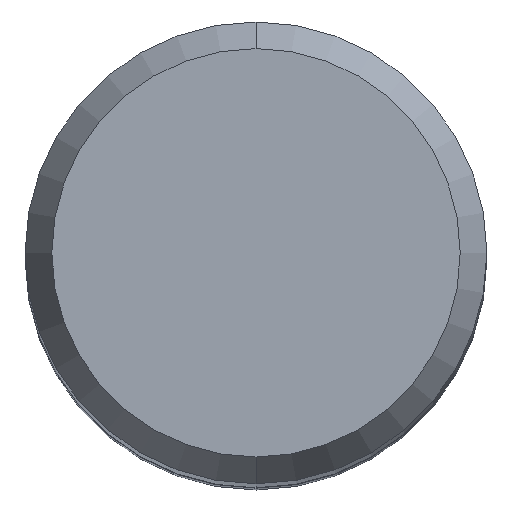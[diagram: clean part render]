
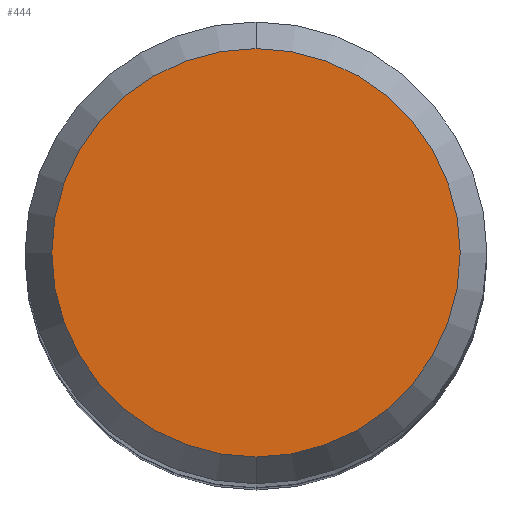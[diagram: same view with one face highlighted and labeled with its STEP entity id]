
A CAD part, top view. The second image highlights one B-rep face of the part: STEP entity #444.
In plain terms, the highlighted planar face has unit normal (0, 0, 1).
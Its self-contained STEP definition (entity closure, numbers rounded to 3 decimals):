
#366=EDGE_CURVE('',#426,#526,#794,.T.);
#390=EDGE_CURVE('',#526,#426,#822,.T.);
#426=VERTEX_POINT('',#861);
#444=ADVANCED_FACE('',(#880),#881,.T.);
#526=VERTEX_POINT('',#969);
#794=CIRCLE('',#1363,3.538);
#822=CIRCLE('',#1452,3.538);
#861=CARTESIAN_POINT('',(0.0,3.538,0.0));
#880=FACE_OUTER_BOUND('',#1523,.T.);
#881=PLANE('',#1524);
#969=CARTESIAN_POINT('',(0.,-3.538,0.0));
#1363=AXIS2_PLACEMENT_3D('',#2068,#2069,#2070);
#1452=AXIS2_PLACEMENT_3D('',#2106,#2107,#2108);
#1523=EDGE_LOOP('',(#2165,#2166));
#1524=AXIS2_PLACEMENT_3D('',#2167,#2168,#2169);
#2068=CARTESIAN_POINT('',(0.0,0.0,0.0));
#2069=DIRECTION('',(0.0,0.0,-1.0));
#2070=DIRECTION('',(0.0,1.0,0.0));
#2106=CARTESIAN_POINT('',(0.0,0.0,0.0));
#2107=DIRECTION('',(0.0,0.0,-1.0));
#2108=DIRECTION('',(0.0,1.0,0.0));
#2165=ORIENTED_EDGE('',*,*,#366,.F.);
#2166=ORIENTED_EDGE('',*,*,#390,.F.);
#2167=CARTESIAN_POINT('',(0.0,1.769,0.0));
#2168=DIRECTION('',(-0.0,0.0,1.0));
#2169=DIRECTION('',(0.0,-1.0,0.0));
